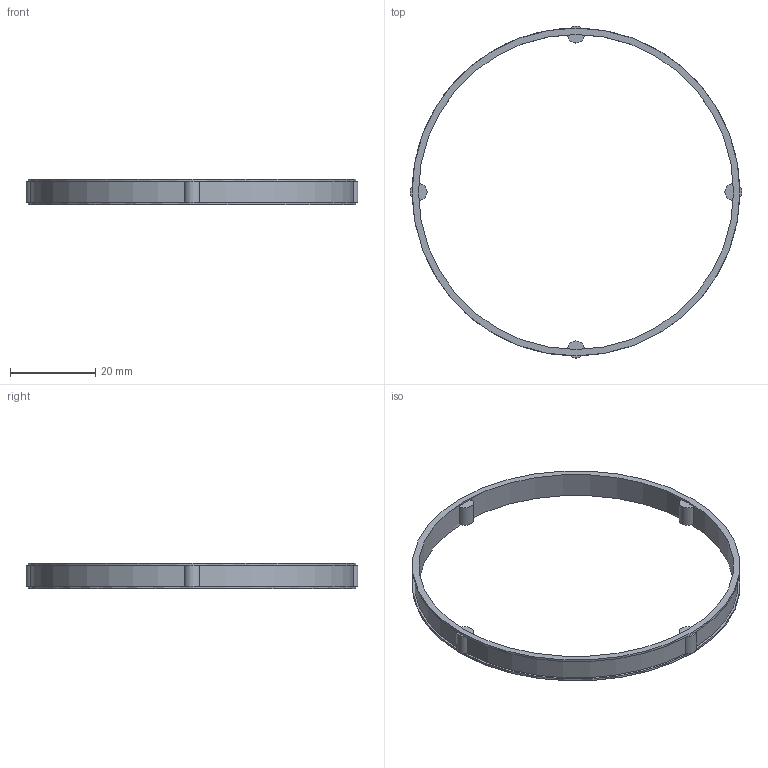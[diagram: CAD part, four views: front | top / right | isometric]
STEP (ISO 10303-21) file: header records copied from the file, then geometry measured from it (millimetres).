
FILE_DESCRIPTION(/* description */ (''),/* implementation_level */ '2;1');
FILE_NAME(/* name */ '303051 RL 478 - 4.stp',/* time_stamp */ '2016-11-10T15:43:00+01:00',/* author */ (''),/* organization */ (''),/* preprocessor_version */ 'ST-DEVELOPER v15',/* originating_system */ 'SIEMENS PLM Software NX 8.5',/* authorisation */ '');
FILE_SCHEMA (('CONFIG_CONTROL_DESIGN'));
Length unit declared in the file: millimetre
Products named in the file (1): ATE0000098_01
Bounding box: 77.99 x 77.99 x 6 mm (x, y, z)
Volume: 1708.2 mm3; surface area: 3885.9 mm2
Topology: 1 solids, 1 shells, 41 faces, 92 edges, 56 vertices
Faces by surface type: plane 26, cylinder 15
Full cylindrical faces by diameter (mm): 74 x1, 77 x2
Entity records: 1198 total; most frequent: DIRECTION 236, CARTESIAN_POINT 178, ORIENTED_EDGE 168, AXIS2_PLACEMENT_3D 110, EDGE_CURVE 84, CIRCLE 68, VERTEX_POINT 52, EDGE_LOOP 50
